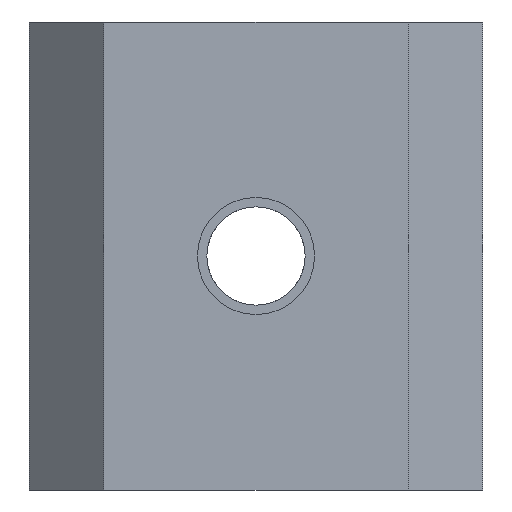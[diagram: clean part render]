
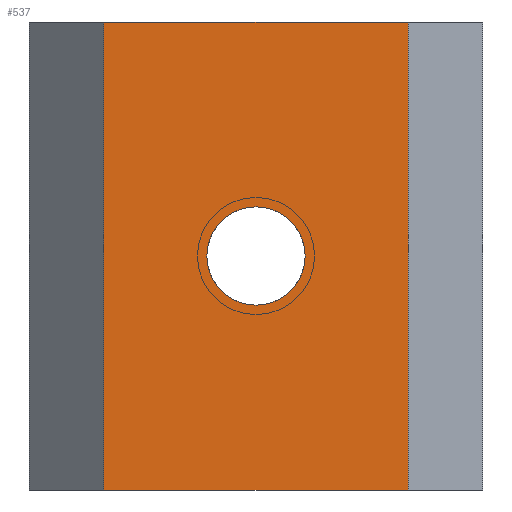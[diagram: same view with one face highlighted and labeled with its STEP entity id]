
A CAD part, front view. The second image highlights one B-rep face of the part: STEP entity #537.
In plain terms, the highlighted planar face has unit normal (0, -1, 0).
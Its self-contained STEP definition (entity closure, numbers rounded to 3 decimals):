
#25=DIRECTION('',(1.,0.,0.));
#26=VECTOR('',#25,13.);
#27=CARTESIAN_POINT('',(-6.5,-5.8,-10.));
#28=LINE('',#27,#26);
#159=DIRECTION('',(0.,0.,1.));
#160=VECTOR('',#159,20.);
#161=CARTESIAN_POINT('',(-6.5,-5.8,-10.));
#162=LINE('',#161,#160);
#163=CARTESIAN_POINT('',(0.,-5.8,0.));
#164=DIRECTION('',(0.,1.,0.));
#165=DIRECTION('',(1.,0.,0.));
#166=AXIS2_PLACEMENT_3D('',#163,#164,#165);
#168=CARTESIAN_POINT('',(0.,-5.8,0.));
#169=DIRECTION('',(0.,1.,0.));
#170=DIRECTION('',(-1.,0.,0.));
#171=AXIS2_PLACEMENT_3D('',#168,#169,#170);
#225=DIRECTION('',(1.,0.,0.));
#226=VECTOR('',#225,13.);
#227=CARTESIAN_POINT('',(-6.5,-5.8,10.));
#228=LINE('',#227,#226);
#261=DIRECTION('',(0.,0.,1.));
#262=VECTOR('',#261,20.);
#263=CARTESIAN_POINT('',(6.5,-5.8,-10.));
#264=LINE('',#263,#262);
#277=CARTESIAN_POINT('',(-6.5,-5.8,-10.));
#278=VERTEX_POINT('',#277);
#279=CARTESIAN_POINT('',(6.5,-5.8,-10.));
#280=VERTEX_POINT('',#279);
#303=CARTESIAN_POINT('',(-6.5,-5.8,10.));
#304=VERTEX_POINT('',#303);
#305=CARTESIAN_POINT('',(6.5,-5.8,10.));
#306=VERTEX_POINT('',#305);
#323=CARTESIAN_POINT('',(2.1,-5.8,0.));
#324=CARTESIAN_POINT('',(-2.1,-5.8,0.));
#325=VERTEX_POINT('',#323);
#326=VERTEX_POINT('',#324);
#519=CARTESIAN_POINT('',(-6.5,-5.8,-10.));
#520=DIRECTION('',(0.,-1.,0.));
#521=DIRECTION('',(1.,0.,0.));
#522=AXIS2_PLACEMENT_3D('',#519,#520,#521);
#523=PLANE('',#522);
#524=ORIENTED_EDGE('',*,*,#352,.F.);
#526=ORIENTED_EDGE('',*,*,#525,.T.);
#528=ORIENTED_EDGE('',*,*,#527,.T.);
#530=ORIENTED_EDGE('',*,*,#529,.F.);
#531=EDGE_LOOP('',(#524,#526,#528,#530));
#532=FACE_OUTER_BOUND('',#531,.F.);
#533=ORIENTED_EDGE('',*,*,#416,.F.);
#534=ORIENTED_EDGE('',*,*,#511,.F.);
#535=EDGE_LOOP('',(#533,#534));
#536=FACE_BOUND('',#535,.F.);
#537=ADVANCED_FACE('',(#532,#536),#523,.T.);
#167=CIRCLE('',#166,2.1);
#172=CIRCLE('',#171,2.1);
#352=EDGE_CURVE('',#278,#280,#28,.T.);
#416=EDGE_CURVE('',#325,#326,#167,.T.);
#511=EDGE_CURVE('',#326,#325,#172,.T.);
#525=EDGE_CURVE('',#278,#304,#162,.T.);
#527=EDGE_CURVE('',#304,#306,#228,.T.);
#529=EDGE_CURVE('',#280,#306,#264,.T.);
